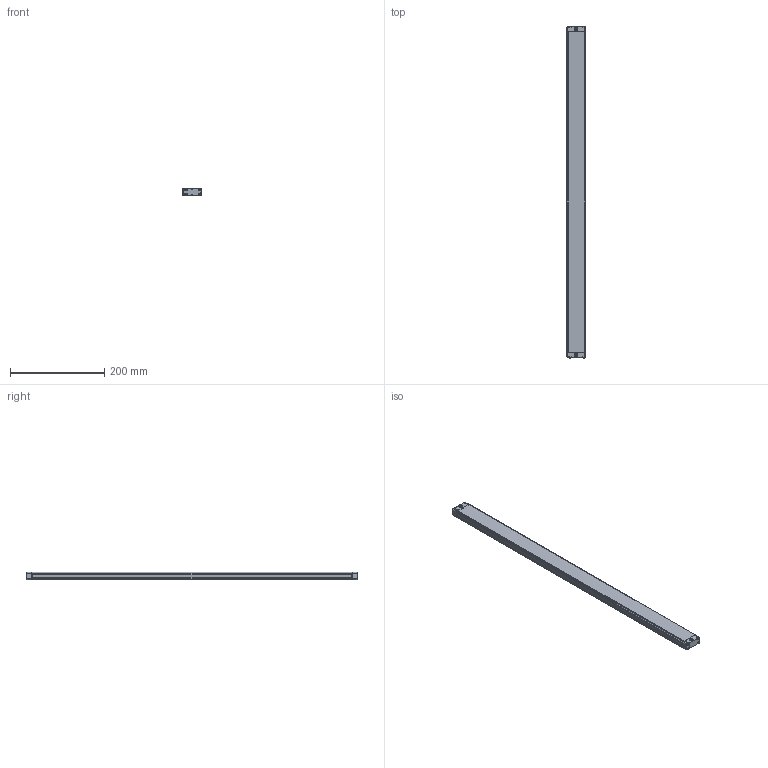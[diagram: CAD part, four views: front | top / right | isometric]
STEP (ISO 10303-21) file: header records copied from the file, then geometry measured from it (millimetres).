
FILE_DESCRIPTION((''),'2;1');
FILE_NAME('EB15--3610_ASM','2021-07-22T10:13:57',('18720616900'),(''),'CREO PARAMETRIC BY PTC INC, 2019010','CREO PARAMETRIC BY PTC INC, 2019010','');
FILE_SCHEMA(('CONFIG_CONTROL_DESIGN'));
Length unit declared in the file: millimetre
Products named in the file (6): EB15-00; EB15-000; EB15-0003; EB15-0004; ST-3-12; EB15--3610_ASM
Assembly tree (12 placements, depth 2):
  EB15--3610_ASM
    EB15-00
    EB15-000
    EB15-0003
    EB15-0004
    ST-3-12  x8
Bounding box: 39.15 x 705 x 15.8 mm (x, y, z)
Volume: 423487 mm3; surface area: 104477.4 mm2
Topology: 12 solids, 12 shells, 827 faces, 2188 edges, 1368 vertices
Faces by surface type: plane 242, bspline 188, cone 176, cylinder 165, torus 40, sphere 16
Entity records: 16044 total; most frequent: CARTESIAN_POINT 7660, ORIENTED_EDGE 1804, DIRECTION 1603, EDGE_CURVE 902, AXIS2_PLACEMENT_3D 577, VERTEX_POINT 563, VECTOR 449, LINE 449
